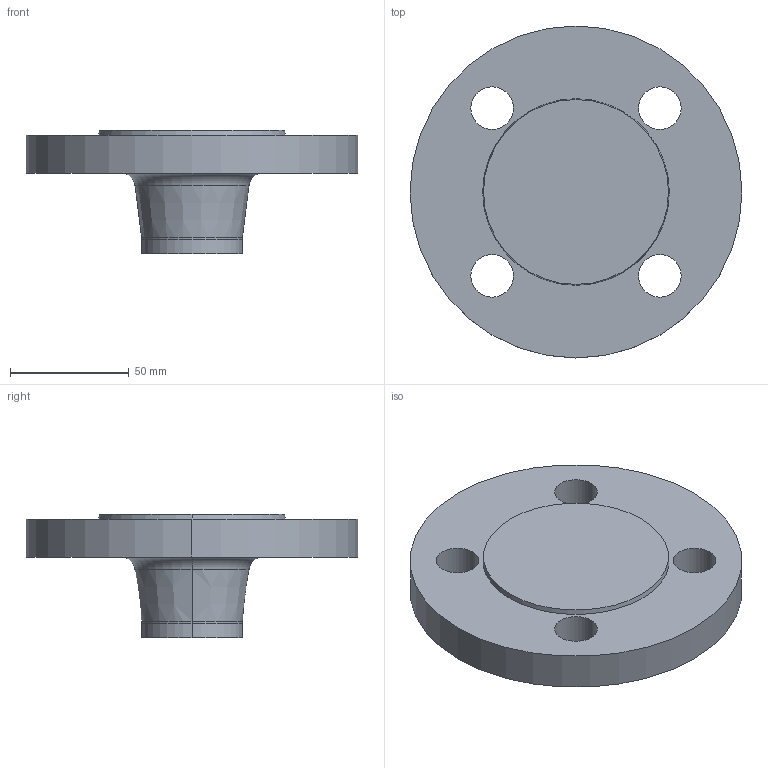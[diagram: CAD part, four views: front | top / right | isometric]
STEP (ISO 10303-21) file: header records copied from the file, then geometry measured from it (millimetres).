
FILE_DESCRIPTION (( 'STEP AP214' ), '1' );
FILE_NAME ('PN40 DN32 Type 21(ii) - Type B Face.STEP', '2018-12-29T23:44:39', ( '' ), ( '' ), 'SwSTEP 2.0', 'SolidWorks 2019', '' );
FILE_SCHEMA (( 'AUTOMOTIVE_DESIGN' ));
Length unit declared in the file: millimetre
Products named in the file (1): PN40 DN32 Type 21(ii) - Type B Face
Bounding box: 140 x 140 x 52 mm (x, y, z)
Volume: 295412.5 mm3; surface area: 43897.8 mm2
Topology: 1 solids, 1 shells, 24 faces, 54 edges, 34 vertices
Faces by surface type: cylinder 12, torus 4, cone 4, plane 4
Entity records: 738 total; most frequent: DIRECTION 142, CARTESIAN_POINT 113, ORIENTED_EDGE 108, AXIS2_PLACEMENT_3D 63, EDGE_CURVE 54, CIRCLE 38, VERTEX_POINT 34, EDGE_LOOP 34
